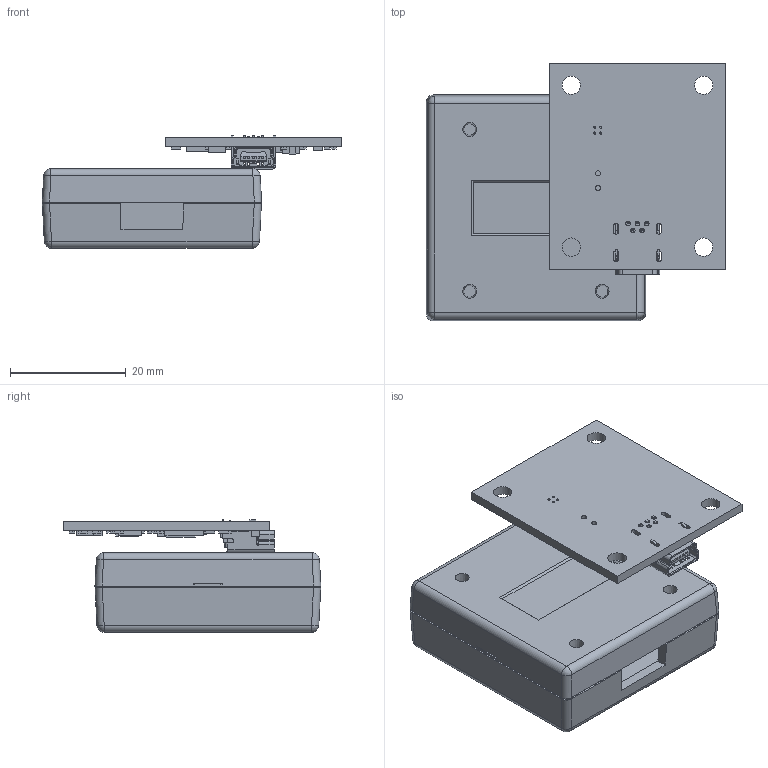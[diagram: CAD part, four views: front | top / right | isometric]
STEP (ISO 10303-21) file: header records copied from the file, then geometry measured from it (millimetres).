
FILE_DESCRIPTION(/* description */ ('Alibre Inc.'),/* implementation_level */ '2;1');
FILE_NAME(/* name */ 'export0',/* time_stamp */ '2018-08-13T12:31:48-06:00',/* author */ (''),/* organization */ (''),/* preprocessor_version */ 'ST-DEVELOPER v17',/* originating_system */ 'Alibre',/* authorisation */ '');
FILE_SCHEMA (('CONFIG_CONTROL_DESIGN'));
Length unit declared in the file: millimetre
Products named in the file (115): ID_1; ID_2; ID_3; ID_4; ID_5; ID_6; ID_7; ID_8; ID_9; ID_10; ID_11; ID_12; ID_13; ID_14; ID_15; ID_16; ID_17; ID_18; ID_19; ID_20; ID_21; ID_22; ID_23; ID_24; ID_25; ID_26; ID_27; ID_28; ID_29; ID_30; ID_31; ID_32; ID_33; ID_34; ID_35; ID_36; ID_37; ID_38; ID_39; ID_40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
Bounding box: 51.69 x 44.46 x 19.41 mm (x, y, z)
Volume: 9364 mm3; surface area: 13582.7 mm2
Topology: 74 solids, 74 shells, 1151 faces, 2915 edges, 1902 vertices
Faces by surface type: plane 982, cylinder 123, bspline 22, cone 16, sphere 8
Full cylindrical faces by diameter (mm): 0.381 x4, 0.8 x5, 0.889 x2, 3.099 x4, 3.175 x4
Entity records: 40087 total; most frequent: CARTESIAN_POINT 5732, ORIENTED_EDGE 4546, DIRECTION 4113, EDGE_CURVE 2273, VECTOR 1965, LINE 1965, VERTEX_POINT 1486, AXIS2_PLACEMENT_3D 1411
